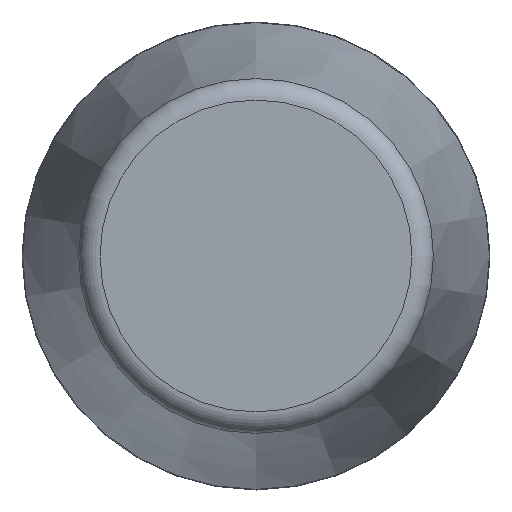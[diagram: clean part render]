
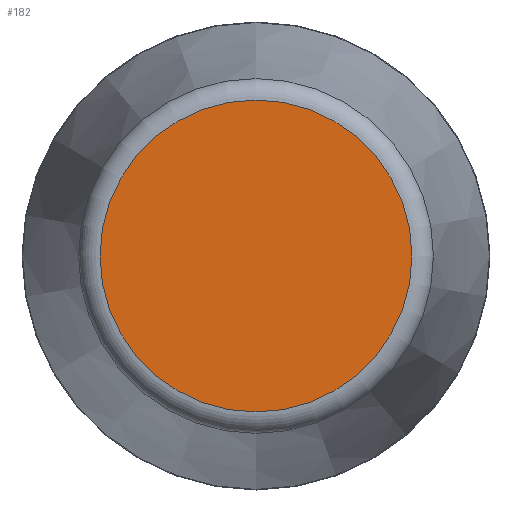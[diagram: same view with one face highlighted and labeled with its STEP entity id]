
A CAD part, front view. The second image highlights one B-rep face of the part: STEP entity #182.
In plain terms, the highlighted planar face has unit normal (0, -1, 0).
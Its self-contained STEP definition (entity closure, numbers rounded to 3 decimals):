
#182 = ADVANCED_FACE( '', ( #217 ), #218, .F. );
#217 = FACE_OUTER_BOUND( '', #292, .T. );
#218 = PLANE( '', #293 );
#292 = EDGE_LOOP( '', ( #368 ) );
#293 = AXIS2_PLACEMENT_3D( '', #369, #370, #371 );
#368 = ORIENTED_EDGE( '', *, *, #564, .T. );
#369 = CARTESIAN_POINT( '', ( 3.576, 0., 0. ) );
#370 = DIRECTION( '', ( 0., 1., 0. ) );
#371 = DIRECTION( '', ( 0., 0., 1. ) );
#564 = EDGE_CURVE( '', #619, #619, #620, .T. );
#619 = VERTEX_POINT( '', #707 );
#620 = CIRCLE( '', #708, 3.576 );
#707 = CARTESIAN_POINT( '', ( 0., 0., -3.576 ) );
#708 = AXIS2_PLACEMENT_3D( '', #906, #907, #908 );
#906 = CARTESIAN_POINT( '', ( 0., 0., 0. ) );
#907 = DIRECTION( '', ( 0., -1., 0. ) );
#908 = DIRECTION( '', ( 0., 0., -1. ) );
